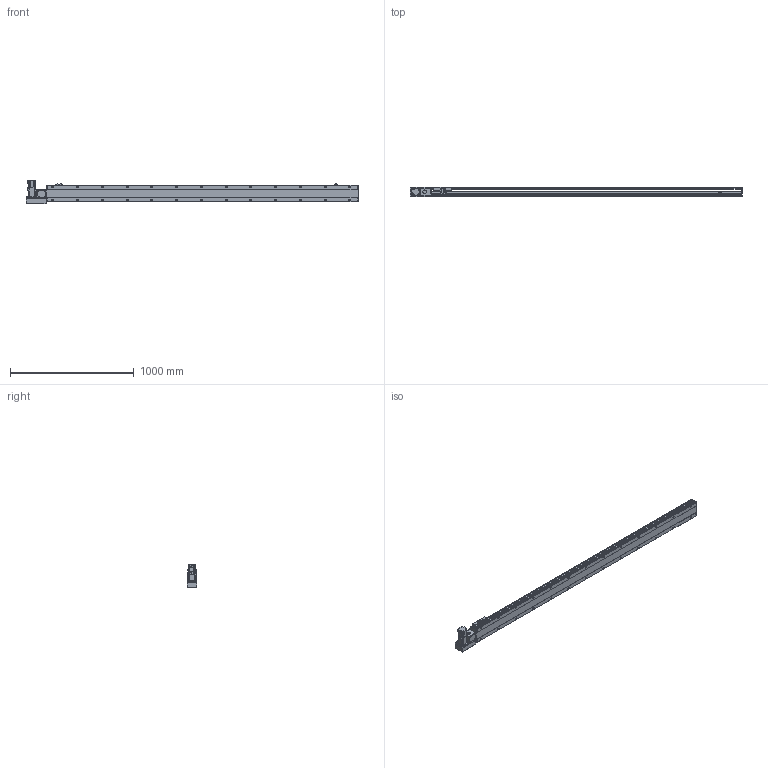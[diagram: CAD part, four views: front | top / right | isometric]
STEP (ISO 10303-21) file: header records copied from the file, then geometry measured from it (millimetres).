
FILE_DESCRIPTION(/* description */ ('STEP AP214'),/* implementation_level */ '2;1');
FILE_NAME(/* name */ 'PBS140-P40-S2250-L-T40-C1-N(0)',/* time_stamp */ '2022-06-06T03:06:50+02:00',/* author */ ('License CC BY-ND 4.0'),/* organization */ ('CADENAS'),/* preprocessor_version */ 'ST-DEVELOPER v18.102',/* originating_system */ 'PARTsolutions',/* authorisation */ ' ');
FILE_SCHEMA (('AUTOMOTIVE_DESIGN {1 0 10303 214 3 1 1}'));
Length unit declared in the file: millimetre
Products named in the file (7): PBS140-P40-S2250-L-T40-C1-N(0); PBS140_sensor; PBS140_plant; PBS140_sliser; T40-p1; PBS140T-L_motors; PBS140-S2250()_body
Assembly tree (8 placements, depth 2):
  PBS140-P40-S2250-L-T40-C1-N(0)
    PBS140_sensor  x3
    PBS140_plant
    PBS140_sliser
    T40-p1
    PBS140T-L_motors
    PBS140-S2250()_body
Bounding box: 2683 x 80.5 x 189.7 mm (x, y, z)
Volume: 11753987.2 mm3; surface area: 2006067.1 mm2
Topology: 8 solids, 8 shells, 1155 faces, 3036 edges, 1983 vertices
Faces by surface type: plane 722, cylinder 371, cone 52, sphere 8, torus 2
Full cylindrical faces by diameter (mm): 3.242 x4, 4 x2, 4.134 x4, 4.4 x8, 4.5 x2, 4.8 x4, 4.917 x34, 5.5 x7, 6 x2, 7 x28, 7.5 x8, 8 x12, 8.5 x4, 10.5 x26, 14 x1, 30 x2, 50 x2
Entity records: 32935 total; most frequent: CARTESIAN_POINT 6225, DIRECTION 5547, ORIENTED_EDGE 5212, EDGE_CURVE 2606, AXIS2_PLACEMENT_3D 1957, VERTEX_POINT 1821, LINE 1633, VECTOR 1633
